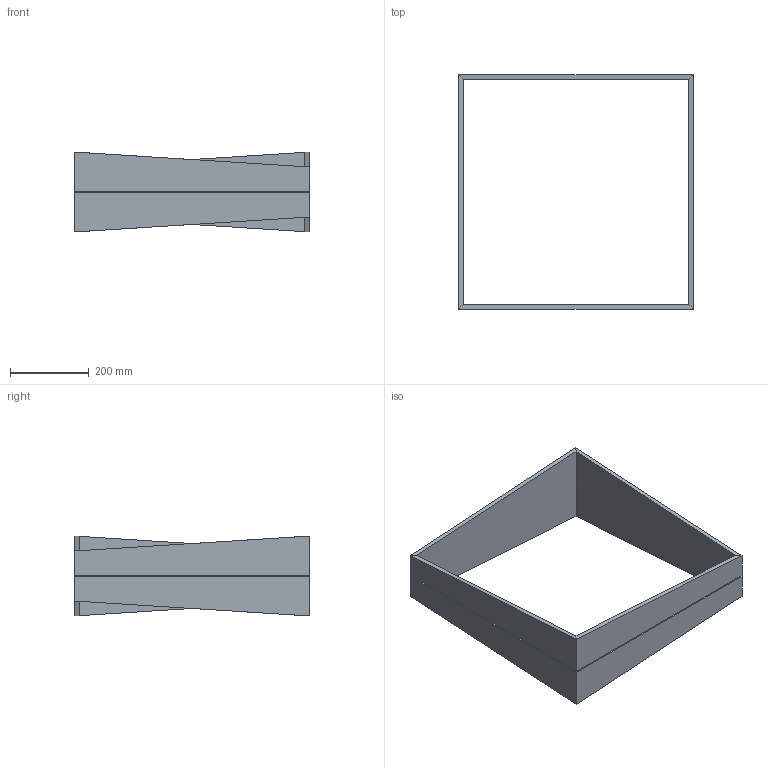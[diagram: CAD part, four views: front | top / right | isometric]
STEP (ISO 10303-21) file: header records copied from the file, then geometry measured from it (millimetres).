
FILE_DESCRIPTION(/* description */ (''),/* implementation_level */ '2;1');
FILE_NAME(/* name */ 'Profile_8',/* time_stamp */ '2026-07-21T14:50:29-05:00',/* author */ (''),/* organization */ (''),/* preprocessor_version */ 'ST-DEVELOPER v19.2',/* originating_system */ 'Rhino 8.32',/* authorisation */ '');
FILE_SCHEMA (('CONFIG_CONTROL_DESIGN'));
Length unit declared in the file: inch
Products named in the file (1): Document
Bounding box: 596.9 x 596.9 x 203.2 mm (x, y, z)
Volume: 4593251.5 mm3; surface area: 877306.7 mm2
Topology: 4 solids, 4 shells, 40 faces, 96 edges, 64 vertices
Faces by surface type: plane 40
Entity records: 1118 total; most frequent: CARTESIAN_POINT 330, ORIENTED_EDGE 192, EDGE_CURVE 96, B_SPLINE_CURVE_WITH_KNOTS 96, VERTEX_POINT 64, DIRECTION 44, AXIS2_PLACEMENT_3D 42, ADVANCED_FACE 40
